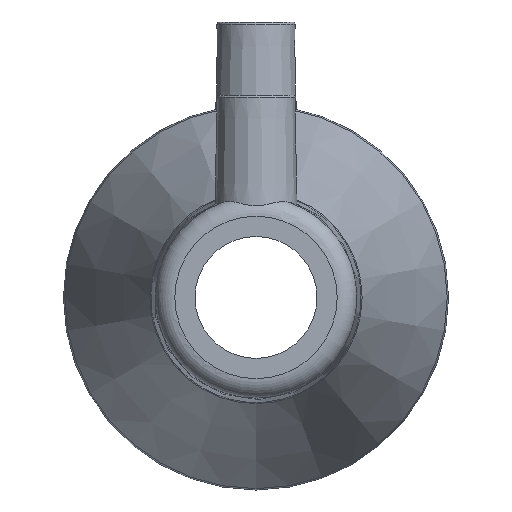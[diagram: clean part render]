
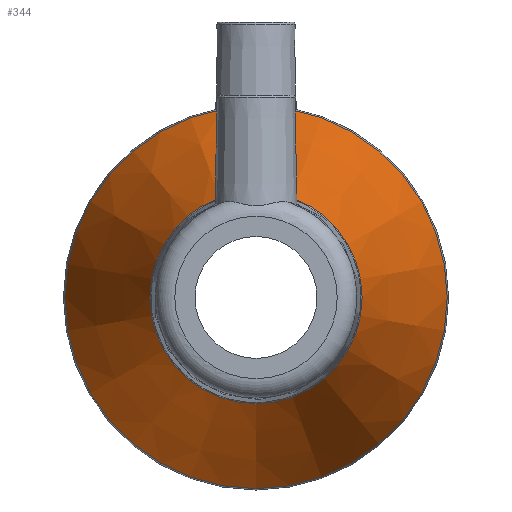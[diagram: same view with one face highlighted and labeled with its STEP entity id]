
A CAD part, left-side view. The second image highlights one B-rep face of the part: STEP entity #344.
In plain terms, the highlighted conical face has half-angle 21.371 degrees and reference radius 39.5 mm.
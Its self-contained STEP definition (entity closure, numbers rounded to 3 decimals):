
#50=CIRCLE('',#394,39.225);
#51=CIRCLE('',#395,21.775);
#83=ORIENTED_EDGE('',*,*,#149,.T.);
#84=ORIENTED_EDGE('',*,*,#150,.T.);
#149=EDGE_CURVE('',#182,#182,#50,.T.);
#150=EDGE_CURVE('',#183,#183,#51,.T.);
#182=VERTEX_POINT('',#613);
#183=VERTEX_POINT('',#615);
#220=EDGE_LOOP('',(#83));
#221=EDGE_LOOP('',(#84));
#281=FACE_BOUND('',#220,.T.);
#282=FACE_BOUND('',#221,.T.);
#336=CONICAL_SURFACE('',#393,39.5,0.373);
#344=ADVANCED_FACE('',(#281,#282),#336,.T.);
#393=AXIS2_PLACEMENT_3D('',#611,#462,#463);
#394=AXIS2_PLACEMENT_3D('',#612,#464,#465);
#395=AXIS2_PLACEMENT_3D('',#614,#466,#467);
#462=DIRECTION('',(1.,0.,0.));
#463=DIRECTION('',(0.,0.,-1.));
#464=DIRECTION('',(-1.,0.,0.));
#465=DIRECTION('',(0.,0.,1.));
#466=DIRECTION('',(1.,0.,0.));
#467=DIRECTION('',(0.,0.,-1.));
#611=CARTESIAN_POINT('',(23.,0.,0.));
#612=CARTESIAN_POINT('',(22.297,0.,0.));
#613=CARTESIAN_POINT('',(22.297,0.,39.225));
#614=CARTESIAN_POINT('',(-22.297,0.,0.));
#615=CARTESIAN_POINT('',(-22.297,0.,-21.775));
